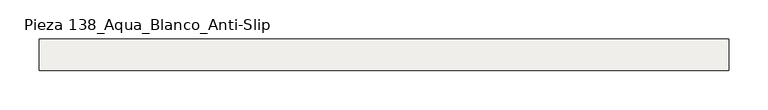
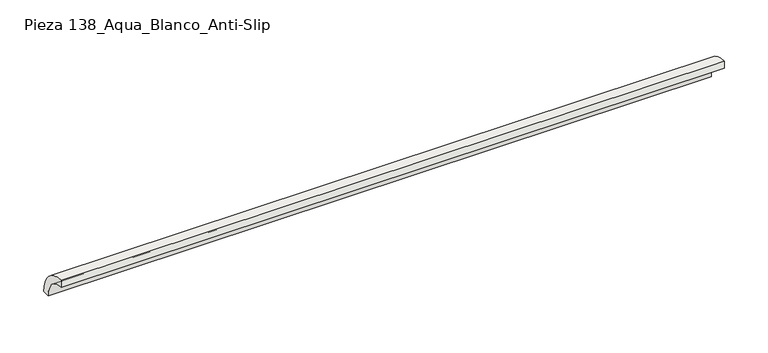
"""IFC4 building model written with IfcOpenShell, lengths in millimetres: slab geometry, ROSA GRES_138 : Pieza 138_Aqua_Blanco_Anti-Slip."""

import ifcopenshell
import ifcopenshell.guid

model = None  # the IFC model being written
_history = None  # IfcOwnerHistory: only IFC2X3 demands one
_inside = {}  # id of a spatial element -> (the spatial element, [elements in it])
_under = {}  # id of a project, library or spatial element -> (it, [spatial elements below it])
_declared = {}  # id of a project -> (the project, [libraries it declares])
_typed = {}  # id of a type object -> (the type object, [elements of that type])
_made_of = {}  # id of a material, layer set ... -> (it, [elements and type objects made of it])


def new_model(schema):
    """Start an empty IFC model of exactly this schema.

    Asked for "IFC4X3", IfcOpenShell would pick the latest addendum, in which some entities
    have other attributes; the version numbers below select the first issue.
    IFC2X3 requires an IfcOwnerHistory on every rooted entity: one is made here for all.
    """
    global model, _history
    if schema == "IFC4X3":
        model = ifcopenshell.file(schema_version=(4, 3, 0, 0))
    else:
        model = ifcopenshell.file(schema=schema)
    _inside.clear()
    _under.clear()
    _declared.clear()
    _typed.clear()
    _made_of.clear()
    _history = None
    if model.schema == "IFC2X3":
        org = make("IfcOrganization", Name="unknown")
        user = make(
            "IfcPersonAndOrganization",
            ThePerson=make("IfcPerson", FamilyName="unknown"),
            TheOrganization=org,
        )
        app = make(
            "IfcApplication",
            ApplicationDeveloper=org,
            Version="unknown",
            ApplicationFullName="unknown",
            ApplicationIdentifier="unknown",
        )
        _history = make(
            "IfcOwnerHistory",
            OwningUser=user,
            OwningApplication=app,
            ChangeAction="ADDED",
            CreationDate=0,
        )
    return model


def make(cls, **values):
    """One entity of the class cls with the attributes given. An attribute that is None is left unset."""
    return model.create_entity(
        cls, **{name: value for name, value in values.items() if value is not None}
    )


def rooted(cls, **values):
    """An entity with a GlobalId (a new one), such as an element, a storey or a relation."""
    return make(cls, GlobalId=ifcopenshell.guid.new(), OwnerHistory=_history, **values)


def si_unit(unit_type, name, prefix=None):
    """IfcSIUnit, for example si_unit("LENGTHUNIT", "METRE", prefix="MILLI")."""
    return make("IfcSIUnit", UnitType=unit_type, Prefix=prefix, Name=name)


def assignment(units):
    """IfcUnitAssignment: the units of a project."""
    return None if units is None else make("IfcUnitAssignment", Units=units)


def point(xyz):
    """IfcCartesianPoint."""
    return None if xyz is None else make("IfcCartesianPoint", Coordinates=xyz)


def direction(xyz):
    """IfcDirection."""
    return None if xyz is None else make("IfcDirection", DirectionRatios=xyz)


def frame(location, z_axis=None, x_axis=None):
    """IfcAxis2Placement3D, a coordinate frame: its origin and axes. An axis left out is left unset."""
    return make(
        "IfcAxis2Placement3D",
        Location=point(location),
        Axis=direction(z_axis),
        RefDirection=direction(x_axis),
    )


def frame_2d(location, x_axis=None):
    """IfcAxis2Placement2D, a coordinate frame in the plane: its origin and x axis."""
    return make(
        "IfcAxis2Placement2D", Location=point(location), RefDirection=direction(x_axis)
    )


def origin():
    """The frame at (0, 0, 0) with its axes left unset."""
    return frame((0.0, 0.0, 0.0))


def origin_2d():
    """The frame at (0, 0) in the plane with its x axis left unset."""
    return frame_2d((0.0, 0.0))


def place(relative_to, where):
    """IfcLocalPlacement: puts the frame where relative to a parent placement (None: the world)."""
    return make(
        "IfcLocalPlacement", PlacementRelTo=relative_to, RelativePlacement=where
    )


def context(
    kind, dimensions, precision=None, world=None, true_north=None, identifier=None
):
    """IfcGeometricRepresentationContext, for example the 3D "Model" context."""
    return make(
        "IfcGeometricRepresentationContext",
        ContextIdentifier=identifier,
        ContextType=kind,
        CoordinateSpaceDimension=dimensions,
        Precision=precision,
        WorldCoordinateSystem=world,
        TrueNorth=true_north,
    )


def project(units=None, contexts=None):
    """IfcProject with its units and contexts."""
    return rooted(
        "IfcProject",
        Name="project",
        RepresentationContexts=contexts,
        UnitsInContext=assignment(units),
    )


def spatial(cls, under=None, at=None, **own):
    """A site, building, storey or space (cls), placed at a placement, below another one or the project."""
    s = rooted(cls, ObjectPlacement=at, **own)
    if under is not None:
        _under.setdefault(under.id(), (under, []))[1].append(s)
    return s


def polyline(points):
    """IfcPolyline through the points."""
    return make("IfcPolyline", Points=[point(p) for p in points])


def circle_curve(where, radius):
    """IfcCircle in the frame where."""
    return make("IfcCircle", Position=where, Radius=radius)


def trimmed(basis, trim1, trim2, sense, master):
    """IfcTrimmedCurve: the piece of a basis curve between two trims."""
    return make(
        "IfcTrimmedCurve",
        BasisCurve=basis,
        Trim1=trim1,
        Trim2=trim2,
        SenseAgreement=sense,
        MasterRepresentation=master,
    )


def segment(curve, same_sense, transition):
    """IfcCompositeCurveSegment."""
    return make(
        "IfcCompositeCurveSegment",
        Transition=transition,
        SameSense=same_sense,
        ParentCurve=curve,
    )


def composite_curve(segments, self_intersect=None):
    """IfcCompositeCurve: segments joined end to end."""
    return make("IfcCompositeCurve", Segments=segments, SelfIntersect=self_intersect)


def outline(outer, holes=None, kind="AREA"):
    """IfcArbitraryClosedProfileDef: a profile drawn as a closed curve; with holes, ...WithVoids."""
    if holes is None:
        return make("IfcArbitraryClosedProfileDef", ProfileType=kind, OuterCurve=outer)
    return make(
        "IfcArbitraryProfileDefWithVoids",
        ProfileType=kind,
        OuterCurve=outer,
        InnerCurves=holes,
    )


def extrude(swept, where, along, depth):
    """IfcExtrudedAreaSolid: the profile swept, set in the frame where, extruded along a direction by depth."""
    return make(
        "IfcExtrudedAreaSolid",
        SweptArea=swept,
        Position=where,
        ExtrudedDirection=direction(along),
        Depth=depth,
    )


def shape(context_of_items, identifier, shape_type, items):
    """IfcShapeRepresentation: the items that make up one representation, for example the "Body"."""
    return make(
        "IfcShapeRepresentation",
        ContextOfItems=context_of_items,
        RepresentationIdentifier=identifier,
        RepresentationType=shape_type,
        Items=items,
    )


def source(mapping_origin, context_of_items, identifier, shape_type, items):
    """IfcRepresentationMap: a shape defined once, which mapped items show again and again."""
    return make(
        "IfcRepresentationMap",
        MappingOrigin=mapping_origin,
        MappedRepresentation=shape(context_of_items, identifier, shape_type, items),
    )


def transform(
    local_origin,
    x_axis=None,
    y_axis=None,
    z_axis=None,
    scale=None,
    scale2=None,
    scale3=None,
    uniform=True,
):
    """IfcCartesianTransformationOperator3D, or its non-uniform kind. x_axis, y_axis, z_axis: its Axis1, 2, 3."""
    if uniform:
        return make(
            "IfcCartesianTransformationOperator3D",
            Axis1=direction(x_axis),
            Axis2=direction(y_axis),
            LocalOrigin=point(local_origin),
            Scale=scale,
            Axis3=direction(z_axis),
        )
    return make(
        "IfcCartesianTransformationOperator3DnonUniform",
        Axis1=direction(x_axis),
        Axis2=direction(y_axis),
        LocalOrigin=point(local_origin),
        Scale=scale,
        Axis3=direction(z_axis),
        Scale2=scale2,
        Scale3=scale3,
    )


def mapped(mapping_source, mapping_target):
    """IfcMappedItem: shows the shape of a source again, moved by a transform."""
    return make(
        "IfcMappedItem", MappingSource=mapping_source, MappingTarget=mapping_target
    )


def made_of(thing, what):
    """Note that an element or type object is made of a material, layer set ...; save() writes the relation."""
    if what is not None:
        _made_of.setdefault(what.id(), (what, []))[1].append(thing)
    return thing


def element(
    cls,
    number,
    at=None,
    inside=None,
    cuts=None,
    type_object=None,
    material=None,
    context=None,
    identifier="Body",
    shape_type=None,
    held_by="IfcProductDefinitionShape",
    body=None,
    shapes=None,
    **own,
):
    """One element of the class cls, such as IfcWall. Its Tag is "e" and its number.

    at: its placement. inside: the storey or other place that contains it. cuts: it is an
    opening in that element (IfcRelVoidsElement). A single representation is given by context,
    identifier, shape_type and body (its items); several are given by shapes. held_by: the class
    of the entity that holds the representations. save() writes the other relations.
    """
    e = rooted(cls, Tag="e%d" % number, ObjectPlacement=at, **own)
    if body is not None:
        shapes = [shape(context, identifier, shape_type, body)]
    if shapes is not None:
        e.Representation = make(held_by, Representations=shapes)
    if inside is not None:
        _inside.setdefault(inside.id(), (inside, []))[1].append(e)
    if cuts is not None:
        rooted(
            "IfcRelVoidsElement", RelatingBuildingElement=cuts, RelatedOpeningElement=e
        )
    if type_object is not None:
        _typed.setdefault(type_object.id(), (type_object, []))[1].append(e)
    return made_of(e, material)


def aggregate(whole, parts):
    """IfcRelAggregates: a whole, such as a stair, and the parts it consists of."""
    return rooted("IfcRelAggregates", RelatingObject=whole, RelatedObjects=parts)


def save(model, path):
    """Write the relations noted so far, then the file.

    IfcRelAggregates (storeys below a building ...), IfcRelContainedInSpatialStructure (elements
    in a storey), IfcRelDefinesByType, IfcRelAssociatesMaterial and IfcRelDeclares: one each for
    every whole, place, type object, material and project.
    """
    for whole, parts in _under.values():
        aggregate(whole, parts)
    for where, things in _inside.values():
        rooted(
            "IfcRelContainedInSpatialStructure",
            RelatedElements=things,
            RelatingStructure=where,
        )
    for kind, things in _typed.values():
        rooted("IfcRelDefinesByType", RelatedObjects=things, RelatingType=kind)
    for what, things in _made_of.values():
        rooted("IfcRelAssociatesMaterial", RelatedObjects=things, RelatingMaterial=what)
    for by, libraries in _declared.values():
        rooted("IfcRelDeclares", RelatingContext=by, RelatedDefinitions=libraries)
    model.write(path)


def pieza_138_aqua_blanco_anti_slip_5d6e6ee4(model_context):
    return source(origin(), model_context, "Body", "SweptSolid", [
        extrude(outline(composite_curve([segment(trimmed(circle_curve(origin_2d(), 40.0), [point((0.0, 40.0))], [point((40.0, 0.0))], False, "CARTESIAN"), True, "CONTINUOUS"), segment(polyline([(40.0, 0.0), (30.0265886, 0.0)]), True, "CONTINUOUS"), segment(trimmed(circle_curve(frame_2d((0.0044453, 0.0044453)), 30.0221435), [point((30.0265886, 0.0))], [point((0.0, 30.0265886))], True, "CARTESIAN"), True, "CONTINUOUS"), segment(polyline([(0.0, 30.0265886), (0.0, 40.0)]), True, "CONTINUOUS")], self_intersect=False)), frame((0.0, 0.0, 0.0), z_axis=(1.0, 0.0, 0.0), x_axis=(0.0, 1.0, 0.0)), (0.0, 0.0, 1.0), 876.0698002),
    ])


if __name__ == "__main__":
    model = new_model("IFC4")
    model_context = context("Model", 3, world=origin())
    ifc_project = project(units=[si_unit("LENGTHUNIT", "METRE", prefix="MILLI")], contexts=[model_context])
    site = spatial("IfcSite", under=ifc_project)
    building = spatial("IfcBuilding", under=site)
    placement = place(None, origin())
    pieza_138_aqua_blanco_anti_slip_shape = pieza_138_aqua_blanco_anti_slip_5d6e6ee4(model_context)
    element("IfcSlab", 1, ObjectType="ROSA GRES_138 : Pieza 138_Aqua_Blanco_Anti-Slip", at=placement, inside=building, context=model_context, shape_type="MappedRepresentation", body=[
        mapped(pieza_138_aqua_blanco_anti_slip_shape, transform((0.0, 0.0, 0.0), x_axis=(1.0, 0.0, 0.0), y_axis=(0.0, 1.0, 0.0), z_axis=(0.0, 0.0, 1.0))),
    ])
    save(model, "model.ifc")
